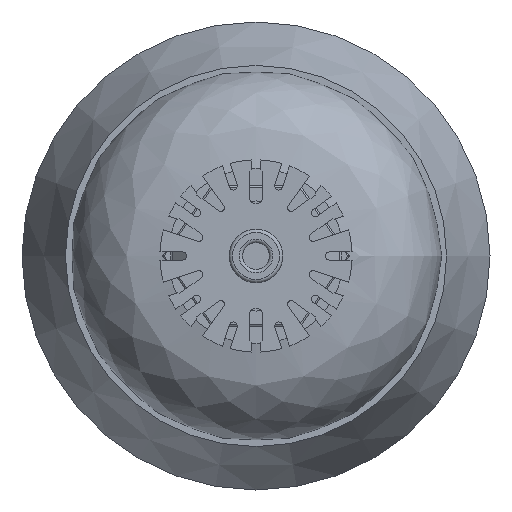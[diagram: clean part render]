
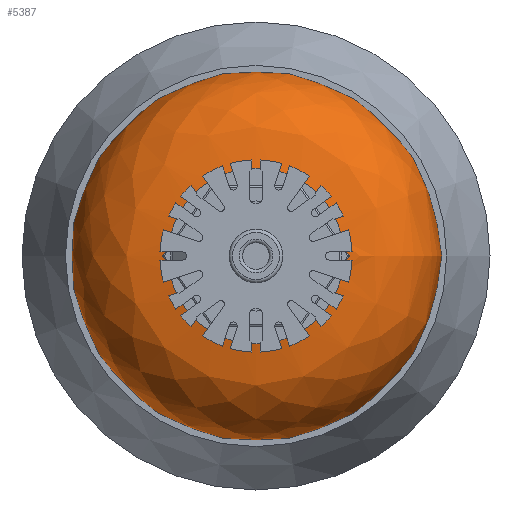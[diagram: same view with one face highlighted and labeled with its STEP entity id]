
A CAD part, front view. The second image highlights one B-rep face of the part: STEP entity #5387.
In plain terms, the highlighted free-form (B-spline) face has degree [2, 2] with [5, 9] control points.
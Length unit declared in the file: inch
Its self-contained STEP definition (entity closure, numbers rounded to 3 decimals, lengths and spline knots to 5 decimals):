
#271=(
BOUNDED_SURFACE()
B_SPLINE_SURFACE(2,2,((#7861,#7862,#7863,#7864,#7865,#7866,#7867,#7868,
#7869),(#7870,#7871,#7872,#7873,#7874,#7875,#7876,#7877,#7878),(#7879,#7880,
#7881,#7882,#7883,#7884,#7885,#7886,#7887),(#7888,#7889,#7890,#7891,#7892,
#7893,#7894,#7895,#7896),(#7897,#7898,#7899,#7900,#7901,#7902,#7903,#7904,
#7905)),.UNSPECIFIED.,.F.,.T.,.F.)
B_SPLINE_SURFACE_WITH_KNOTS((3,2,3),(3,2,2,2,3),(-0.19301,0.69818,
1.58937),(-3.14159,-1.5708,0.,1.5708,
3.14159),.UNSPECIFIED.)
GEOMETRIC_REPRESENTATION_ITEM()
RATIONAL_B_SPLINE_SURFACE(((1.,0.707,1.,0.707,1.,
0.707,1.,0.707,1.),(0.902,0.638,
0.902,0.638,0.902,0.638,
0.902,0.638,0.902),(1.,0.707,
1.,0.707,1.,0.707,1.,0.707,1.),(0.902,
0.638,0.902,0.638,0.902,
0.638,0.902,0.638,0.902),
(1.,0.707,1.,0.707,1.,0.707,1.,0.707,
1.)))
REPRESENTATION_ITEM('')
SURFACE()
);
#393=FACE_OUTER_BOUND('',#703,.T.);
#703=EDGE_LOOP('',(#3372,#3373,#3374,#3375,#3376,#3377));
#1734=CIRCLE('',#5765,1.375);
#1735=CIRCLE('',#5766,1.375);
#1736=CIRCLE('',#5767,0.6575);
#1737=CIRCLE('',#5768,0.6575);
#1738=CIRCLE('',#5769,0.7175);
#2041=VERTEX_POINT('',#7856);
#2042=VERTEX_POINT('',#7857);
#2043=VERTEX_POINT('',#7906);
#2044=VERTEX_POINT('',#7907);
#2554=EDGE_CURVE('',#2041,#2042,#1734,.T.);
#2555=EDGE_CURVE('',#2042,#2041,#1735,.T.);
#2557=EDGE_CURVE('',#2043,#2044,#1736,.T.);
#2558=EDGE_CURVE('',#2044,#2043,#1737,.T.);
#2559=EDGE_CURVE('',#2044,#2042,#1738,.T.);
#3372=ORIENTED_EDGE('',*,*,#2557,.F.);
#3373=ORIENTED_EDGE('',*,*,#2558,.F.);
#3374=ORIENTED_EDGE('',*,*,#2559,.T.);
#3375=ORIENTED_EDGE('',*,*,#2555,.T.);
#3376=ORIENTED_EDGE('',*,*,#2554,.T.);
#3377=ORIENTED_EDGE('',*,*,#2559,.F.);
#5387=ADVANCED_FACE('',(#393),#271,.F.);
#5765=AXIS2_PLACEMENT_3D('',#7858,#6354,#6355);
#5766=AXIS2_PLACEMENT_3D('',#7859,#6356,#6357);
#5767=AXIS2_PLACEMENT_3D('',#7908,#6359,#6360);
#5768=AXIS2_PLACEMENT_3D('',#7909,#6361,#6362);
#5769=AXIS2_PLACEMENT_3D('',#7910,#6363,#6364);
#6354=DIRECTION('center_axis',(0.,-1.,0.));
#6355=DIRECTION('ref_axis',(1.,0.,0.));
#6356=DIRECTION('center_axis',(0.,-1.,0.));
#6357=DIRECTION('ref_axis',(1.,0.,0.));
#6359=DIRECTION('center_axis',(0.,-1.,0.));
#6360=DIRECTION('ref_axis',(1.,0.,0.));
#6361=DIRECTION('center_axis',(0.,-1.,0.));
#6362=DIRECTION('ref_axis',(1.,0.,0.));
#6363=DIRECTION('center_axis',(0.,0.,
1.));
#6364=DIRECTION('ref_axis',(1.,0.,0.));
#7856=CARTESIAN_POINT('',(-1.375,2.355,0.));
#7857=CARTESIAN_POINT('',(1.375,2.355,0.));
#7858=CARTESIAN_POINT('Origin',(0.,2.355,0.));
#7859=CARTESIAN_POINT('Origin',(0.,2.355,0.));
#7861=CARTESIAN_POINT('Ctrl Pts',(1.375,2.355,0.));
#7862=CARTESIAN_POINT('Ctrl Pts',(1.375,2.355,1.375));
#7863=CARTESIAN_POINT('Ctrl Pts',(0.,2.355,1.375));
#7864=CARTESIAN_POINT('Ctrl Pts',(-1.375,2.355,1.375));
#7865=CARTESIAN_POINT('Ctrl Pts',(-1.375,2.355,0.));
#7866=CARTESIAN_POINT('Ctrl Pts',(-1.375,2.355,-1.375));
#7867=CARTESIAN_POINT('Ctrl Pts',(0.,2.355,-1.375));
#7868=CARTESIAN_POINT('Ctrl Pts',(1.375,2.355,-1.375));
#7869=CARTESIAN_POINT('Ctrl Pts',(1.375,2.355,0.));
#7870=CARTESIAN_POINT('Ctrl Pts',(1.44073,2.01866,0.));
#7871=CARTESIAN_POINT('Ctrl Pts',(1.44073,2.01866,1.44073));
#7872=CARTESIAN_POINT('Ctrl Pts',(0.,2.01866,1.44073));
#7873=CARTESIAN_POINT('Ctrl Pts',(-1.44073,2.01866,1.44073));
#7874=CARTESIAN_POINT('Ctrl Pts',(-1.44073,2.01866,0.));
#7875=CARTESIAN_POINT('Ctrl Pts',(-1.44073,2.01866,-1.44073));
#7876=CARTESIAN_POINT('Ctrl Pts',(0.,2.01866,-1.44073));
#7877=CARTESIAN_POINT('Ctrl Pts',(1.44073,2.01866,-1.44073));
#7878=CARTESIAN_POINT('Ctrl Pts',(1.44073,2.01866,0.));
#7879=CARTESIAN_POINT('Ctrl Pts',(1.22044,1.75615,0.));
#7880=CARTESIAN_POINT('Ctrl Pts',(1.22044,1.75615,1.22044));
#7881=CARTESIAN_POINT('Ctrl Pts',(0.,1.75615,1.22044));
#7882=CARTESIAN_POINT('Ctrl Pts',(-1.22044,1.75615,1.22044));
#7883=CARTESIAN_POINT('Ctrl Pts',(-1.22044,1.75615,0.));
#7884=CARTESIAN_POINT('Ctrl Pts',(-1.22044,1.75615,-1.22044));
#7885=CARTESIAN_POINT('Ctrl Pts',(0.,1.75615,-1.22044));
#7886=CARTESIAN_POINT('Ctrl Pts',(1.22044,1.75615,-1.22044));
#7887=CARTESIAN_POINT('Ctrl Pts',(1.22044,1.75615,0.));
#7888=CARTESIAN_POINT('Ctrl Pts',(1.00014,1.49364,0.));
#7889=CARTESIAN_POINT('Ctrl Pts',(1.00014,1.49364,1.00014));
#7890=CARTESIAN_POINT('Ctrl Pts',(0.,1.49364,1.00014));
#7891=CARTESIAN_POINT('Ctrl Pts',(-1.00014,1.49364,1.00014));
#7892=CARTESIAN_POINT('Ctrl Pts',(-1.00014,1.49364,0.));
#7893=CARTESIAN_POINT('Ctrl Pts',(-1.00014,1.49364,-1.00014));
#7894=CARTESIAN_POINT('Ctrl Pts',(0.,1.49364,-1.00014));
#7895=CARTESIAN_POINT('Ctrl Pts',(1.00014,1.49364,-1.00014));
#7896=CARTESIAN_POINT('Ctrl Pts',(1.00014,1.49364,0.));
#7897=CARTESIAN_POINT('Ctrl Pts',(0.6575,1.5,0.));
#7898=CARTESIAN_POINT('Ctrl Pts',(0.6575,1.5,0.6575));
#7899=CARTESIAN_POINT('Ctrl Pts',(0.,1.5,0.6575));
#7900=CARTESIAN_POINT('Ctrl Pts',(-0.6575,1.5,0.6575));
#7901=CARTESIAN_POINT('Ctrl Pts',(-0.6575,1.5,0.));
#7902=CARTESIAN_POINT('Ctrl Pts',(-0.6575,1.5,-0.6575));
#7903=CARTESIAN_POINT('Ctrl Pts',(0.,1.5,-0.6575));
#7904=CARTESIAN_POINT('Ctrl Pts',(0.6575,1.5,-0.6575));
#7905=CARTESIAN_POINT('Ctrl Pts',(0.6575,1.5,0.));
#7906=CARTESIAN_POINT('',(-0.6575,1.5,0.));
#7907=CARTESIAN_POINT('',(0.6575,1.5,0.));
#7908=CARTESIAN_POINT('Origin',(0.,1.5,0.));
#7909=CARTESIAN_POINT('Origin',(0.,1.5,0.));
#7910=CARTESIAN_POINT('Origin',(0.67082,2.21738,0.));
